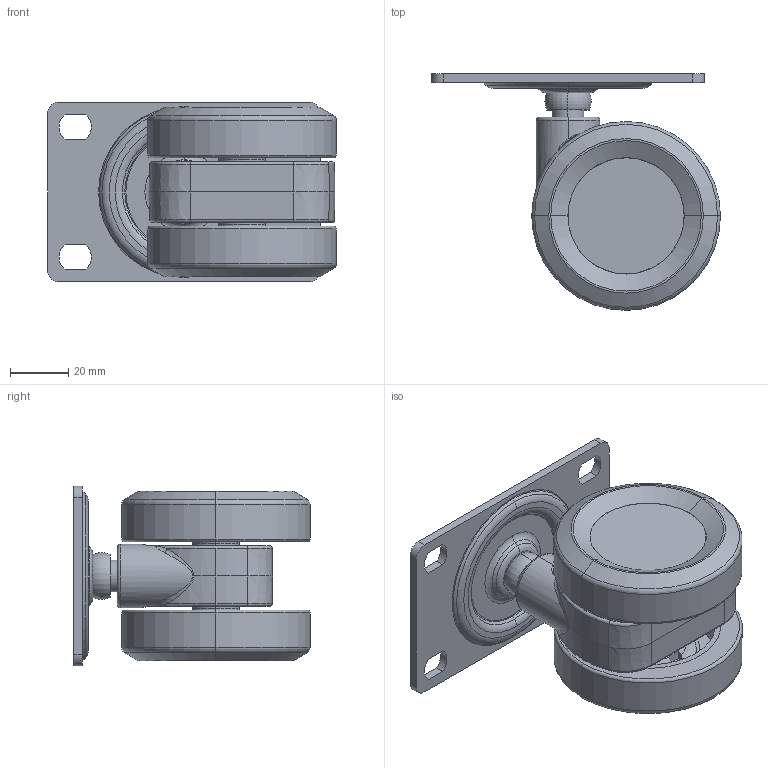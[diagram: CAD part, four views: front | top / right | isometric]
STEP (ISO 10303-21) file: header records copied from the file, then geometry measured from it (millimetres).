
FILE_DESCRIPTION (( 'STEP AP203' ), '1' );
FILE_NAME ('11100250242053.STEP', '2025-08-05T02:43:06', ( '20241006' ), ( '' ), 'SwSTEP 2.0', 'SolidWorks 2021', '' );
FILE_SCHEMA (( 'CONFIG_CONTROL_DESIGN' ));
Length unit declared in the file: millimetre
Products named in the file (9): 11100250242053; 复件 2.5寸外包^复件 2.5寸輪片組_2.5寸活動優優輪（未装铁件）; 复件 3''''雙球輪防塵蓋-1型^2.5寸活動優優輪（未装铁件）_預設; 复件 2.5寸優優輪活動輪座^2.5寸活動優優輪（未装铁件）; 复件 2.5寸輪片組^2.5寸活動優優輪（未装铁件）; 詢撰菁啣94x62_蕼偞; 高级底板94x62插桿; 复件 2.5''''優優輪內仁^复件 2.5寸輪片組_2.5寸活動優優輪（未装铁件）_預設; ?11x?16x38.5L(鉚頭?9.3)插桿
Assembly tree (10 placements, depth 3):
  11100250242053
    复件 2.5寸優優輪活動輪座^2.5寸活動優優輪（未装铁件）
    复件 2.5寸輪片組^2.5寸活動優優輪（未装铁件）  x2
      复件 2.5''''優優輪內仁^复件 2.5寸輪片組_2.5寸活動優優輪（未装铁件）_預設
      复件 2.5寸外包^复件 2.5寸輪片組_2.5寸活動優優輪（未装铁件）
    复件 3''''雙球輪防塵蓋-1型^2.5寸活動優優輪（未装铁件）_預設  x2
    高级底板94x62插桿
      詢撰菁啣94x62_蕼偞
      ?11x?16x38.5L(鉚頭?9.3)插桿
Bounding box: 99.5 x 81.52 x 62 mm (x, y, z)
Volume: 115769.6 mm3; surface area: 86512.1 mm2
Topology: 9 solids, 9 shells, 1123 faces, 3243 edges, 2084 vertices
Faces by surface type: plane 519, cylinder 401, torus 92, cone 91, bspline 18, sphere 2
Entity records: 25054 total; most frequent: CARTESIAN_POINT 5479, DIRECTION 4096, ORIENTED_EDGE 3934, EDGE_CURVE 1967, AXIS2_PLACEMENT_3D 1592, VERTEX_POINT 1262, LINE 912, VECTOR 912
